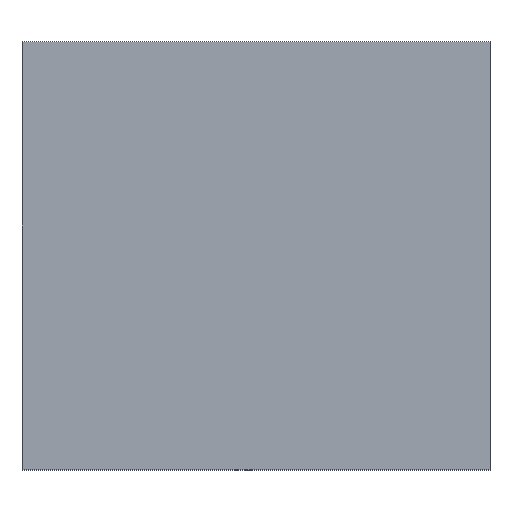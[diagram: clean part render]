
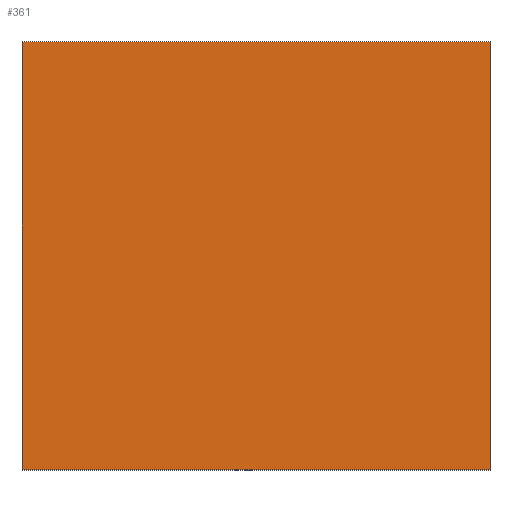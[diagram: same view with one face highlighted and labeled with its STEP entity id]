
A CAD part, top view. The second image highlights one B-rep face of the part: STEP entity #361.
In plain terms, the highlighted planar face has unit normal (0, 0, 1).
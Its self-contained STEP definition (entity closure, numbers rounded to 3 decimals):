
#47 = VERTEX_POINT('',#48);
#48 = CARTESIAN_POINT('',(-1.,5.7,7.5));
#55 = PLANE('',#56);
#56 = AXIS2_PLACEMENT_3D('',#57,#58,#59);
#57 = CARTESIAN_POINT('',(-1.,5.7,0.));
#58 = DIRECTION('',(0.,1.,0.));
#59 = DIRECTION('',(1.,0.,0.));
#67 = PLANE('',#68);
#68 = AXIS2_PLACEMENT_3D('',#69,#70,#71);
#69 = CARTESIAN_POINT('',(-1.,-0.7,0.));
#70 = DIRECTION('',(-1.,0.,0.));
#71 = DIRECTION('',(0.,1.,0.));
#79 = EDGE_CURVE('',#47,#80,#82,.T.);
#80 = VERTEX_POINT('',#81);
#81 = CARTESIAN_POINT('',(6.,5.7,7.5));
#82 = SURFACE_CURVE('',#83,(#87,#94),.PCURVE_S1.);
#83 = LINE('',#84,#85);
#84 = CARTESIAN_POINT('',(-1.,5.7,7.5));
#85 = VECTOR('',#86,1.);
#86 = DIRECTION('',(1.,0.,0.));
#87 = PCURVE('',#55,#88);
#88 = DEFINITIONAL_REPRESENTATION('',(#89),#93);
#89 = LINE('',#90,#91);
#90 = CARTESIAN_POINT('',(0.,-7.5));
#91 = VECTOR('',#92,1.);
#92 = DIRECTION('',(1.,0.));
#93 = ( GEOMETRIC_REPRESENTATION_CONTEXT(2) 
PARAMETRIC_REPRESENTATION_CONTEXT() REPRESENTATION_CONTEXT('2D SPACE',''
  ) );
#94 = PCURVE('',#95,#100);
#95 = PLANE('',#96);
#96 = AXIS2_PLACEMENT_3D('',#97,#98,#99);
#97 = CARTESIAN_POINT('',(2.5,2.5,7.5));
#98 = DIRECTION('',(0.,0.,-1.));
#99 = DIRECTION('',(-1.,0.,0.));
#100 = DEFINITIONAL_REPRESENTATION('',(#101),#105);
#101 = LINE('',#102,#103);
#102 = CARTESIAN_POINT('',(3.5,3.2));
#103 = VECTOR('',#104,1.);
#104 = DIRECTION('',(-1.,0.));
#105 = ( GEOMETRIC_REPRESENTATION_CONTEXT(2) 
PARAMETRIC_REPRESENTATION_CONTEXT() REPRESENTATION_CONTEXT('2D SPACE',''
  ) );
#123 = PLANE('',#124);
#124 = AXIS2_PLACEMENT_3D('',#125,#126,#127);
#125 = CARTESIAN_POINT('',(6.,5.7,0.));
#126 = DIRECTION('',(1.,0.,-0.));
#127 = DIRECTION('',(0.,-1.,0.));
#165 = EDGE_CURVE('',#80,#166,#168,.T.);
#166 = VERTEX_POINT('',#167);
#167 = CARTESIAN_POINT('',(6.,-0.7,7.5));
#168 = SURFACE_CURVE('',#169,(#173,#180),.PCURVE_S1.);
#169 = LINE('',#170,#171);
#170 = CARTESIAN_POINT('',(6.,5.7,7.5));
#171 = VECTOR('',#172,1.);
#172 = DIRECTION('',(0.,-1.,0.));
#173 = PCURVE('',#123,#174);
#174 = DEFINITIONAL_REPRESENTATION('',(#175),#179);
#175 = LINE('',#176,#177);
#176 = CARTESIAN_POINT('',(0.,-7.5));
#177 = VECTOR('',#178,1.);
#178 = DIRECTION('',(1.,0.));
#179 = ( GEOMETRIC_REPRESENTATION_CONTEXT(2) 
PARAMETRIC_REPRESENTATION_CONTEXT() REPRESENTATION_CONTEXT('2D SPACE',''
  ) );
#180 = PCURVE('',#95,#181);
#181 = DEFINITIONAL_REPRESENTATION('',(#182),#186);
#182 = LINE('',#183,#184);
#183 = CARTESIAN_POINT('',(-3.5,3.2));
#184 = VECTOR('',#185,1.);
#185 = DIRECTION('',(0.,-1.));
#186 = ( GEOMETRIC_REPRESENTATION_CONTEXT(2) 
PARAMETRIC_REPRESENTATION_CONTEXT() REPRESENTATION_CONTEXT('2D SPACE',''
  ) );
#204 = PLANE('',#205);
#205 = AXIS2_PLACEMENT_3D('',#206,#207,#208);
#206 = CARTESIAN_POINT('',(6.,-0.7,0.));
#207 = DIRECTION('',(0.,-1.,0.));
#208 = DIRECTION('',(-1.,0.,0.));
#241 = EDGE_CURVE('',#166,#242,#244,.T.);
#242 = VERTEX_POINT('',#243);
#243 = CARTESIAN_POINT('',(-1.,-0.7,7.5));
#244 = SURFACE_CURVE('',#245,(#249,#256),.PCURVE_S1.);
#245 = LINE('',#246,#247);
#246 = CARTESIAN_POINT('',(6.,-0.7,7.5));
#247 = VECTOR('',#248,1.);
#248 = DIRECTION('',(-1.,0.,0.));
#249 = PCURVE('',#204,#250);
#250 = DEFINITIONAL_REPRESENTATION('',(#251),#255);
#251 = LINE('',#252,#253);
#252 = CARTESIAN_POINT('',(0.,-7.5));
#253 = VECTOR('',#254,1.);
#254 = DIRECTION('',(1.,0.));
#255 = ( GEOMETRIC_REPRESENTATION_CONTEXT(2) 
PARAMETRIC_REPRESENTATION_CONTEXT() REPRESENTATION_CONTEXT('2D SPACE',''
  ) );
#256 = PCURVE('',#95,#257);
#257 = DEFINITIONAL_REPRESENTATION('',(#258),#262);
#258 = LINE('',#259,#260);
#259 = CARTESIAN_POINT('',(-3.5,-3.2));
#260 = VECTOR('',#261,1.);
#261 = DIRECTION('',(1.,0.));
#262 = ( GEOMETRIC_REPRESENTATION_CONTEXT(2) 
PARAMETRIC_REPRESENTATION_CONTEXT() REPRESENTATION_CONTEXT('2D SPACE',''
  ) );
#312 = EDGE_CURVE('',#242,#47,#313,.T.);
#313 = SURFACE_CURVE('',#314,(#318,#325),.PCURVE_S1.);
#314 = LINE('',#315,#316);
#315 = CARTESIAN_POINT('',(-1.,-0.7,7.5));
#316 = VECTOR('',#317,1.);
#317 = DIRECTION('',(0.,1.,0.));
#318 = PCURVE('',#67,#319);
#319 = DEFINITIONAL_REPRESENTATION('',(#320),#324);
#320 = LINE('',#321,#322);
#321 = CARTESIAN_POINT('',(0.,-7.5));
#322 = VECTOR('',#323,1.);
#323 = DIRECTION('',(1.,0.));
#324 = ( GEOMETRIC_REPRESENTATION_CONTEXT(2) 
PARAMETRIC_REPRESENTATION_CONTEXT() REPRESENTATION_CONTEXT('2D SPACE',''
  ) );
#325 = PCURVE('',#95,#326);
#326 = DEFINITIONAL_REPRESENTATION('',(#327),#331);
#327 = LINE('',#328,#329);
#328 = CARTESIAN_POINT('',(3.5,-3.2));
#329 = VECTOR('',#330,1.);
#330 = DIRECTION('',(0.,1.));
#331 = ( GEOMETRIC_REPRESENTATION_CONTEXT(2) 
PARAMETRIC_REPRESENTATION_CONTEXT() REPRESENTATION_CONTEXT('2D SPACE',''
  ) );
#361 = ADVANCED_FACE('',(#362),#95,.F.);
#362 = FACE_BOUND('',#363,.F.);
#363 = EDGE_LOOP('',(#364,#365,#366,#367));
#364 = ORIENTED_EDGE('',*,*,#79,.T.);
#365 = ORIENTED_EDGE('',*,*,#165,.T.);
#366 = ORIENTED_EDGE('',*,*,#241,.T.);
#367 = ORIENTED_EDGE('',*,*,#312,.T.);
